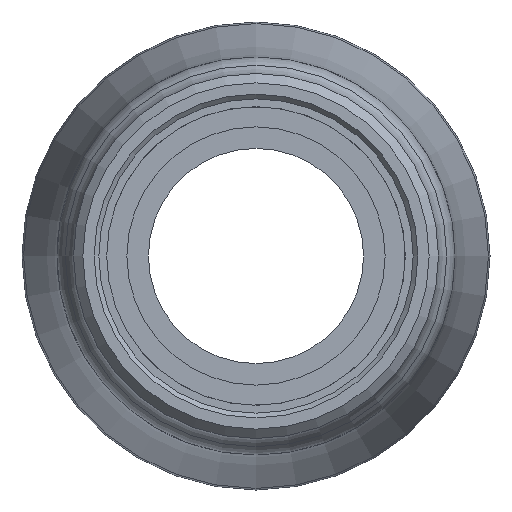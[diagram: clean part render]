
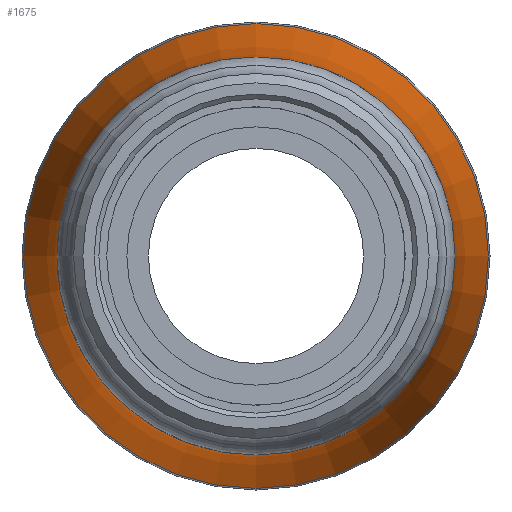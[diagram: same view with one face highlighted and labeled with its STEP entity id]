
A CAD part, left-side view. The second image highlights one B-rep face of the part: STEP entity #1675.
In plain terms, the highlighted toroidal (fillet/blend) face has major radius 148.084 mm and minor radius 123.434 mm.
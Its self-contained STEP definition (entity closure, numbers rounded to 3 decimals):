
#19=TOROIDAL_SURFACE('',#1876,148.084,123.434);
#270=FACE_BOUND('',#508,.T.);
#376=FACE_OUTER_BOUND('',#507,.T.);
#507=EDGE_LOOP('',(#1532));
#508=EDGE_LOOP('',(#1533));
#565=CIRCLE('',#1768,24.65);
#566=CIRCLE('',#1770,28.805);
#738=VERTEX_POINT('',#2832);
#739=VERTEX_POINT('',#2835);
#911=EDGE_CURVE('',#738,#738,#565,.T.);
#912=EDGE_CURVE('',#739,#739,#566,.T.);
#1532=ORIENTED_EDGE('',*,*,#912,.F.);
#1533=ORIENTED_EDGE('',*,*,#911,.T.);
#1675=ADVANCED_FACE('',(#376,#270),#19,.F.);
#1768=AXIS2_PLACEMENT_3D('',#2833,#2075,#2076);
#1770=AXIS2_PLACEMENT_3D('',#2836,#2079,#2080);
#1876=AXIS2_PLACEMENT_3D('',#3779,#2355,#2356);
#2075=DIRECTION('center_axis',(1.,0.,0.));
#2076=DIRECTION('ref_axis',(0.,0.,-1.));
#2079=DIRECTION('center_axis',(1.,0.,0.));
#2080=DIRECTION('ref_axis',(0.,-1.,0.));
#2355=DIRECTION('center_axis',(1.,0.,0.));
#2356=DIRECTION('ref_axis',(0.,0.,-1.));
#2832=CARTESIAN_POINT('',(42.,24.65,0.));
#2833=CARTESIAN_POINT('Origin',(42.,0.,0.));
#2835=CARTESIAN_POINT('',(73.756,28.805,0.));
#2836=CARTESIAN_POINT('Origin',(73.756,0.,0.));
#3779=CARTESIAN_POINT('Origin',(42.,0.,0.));
